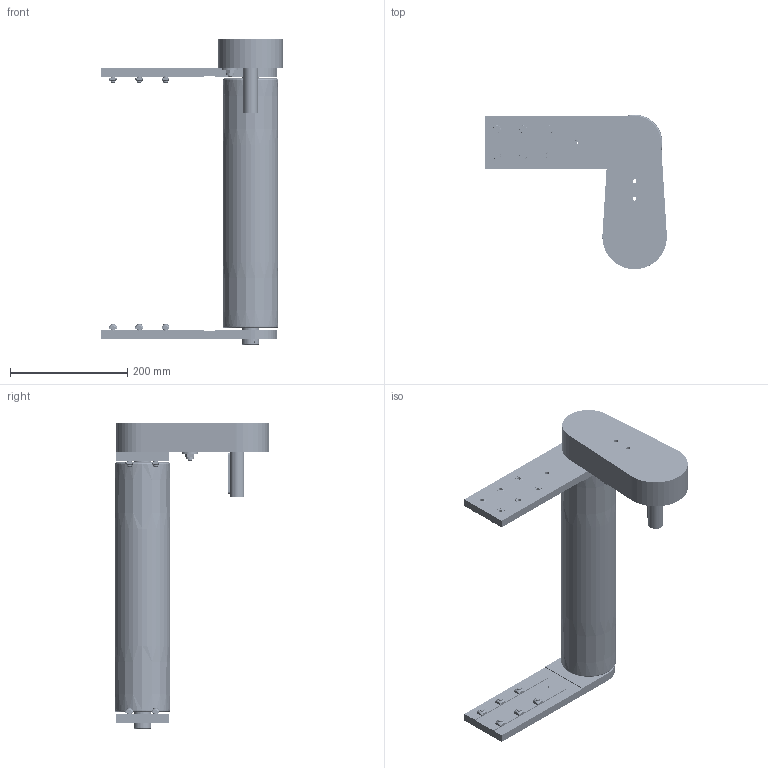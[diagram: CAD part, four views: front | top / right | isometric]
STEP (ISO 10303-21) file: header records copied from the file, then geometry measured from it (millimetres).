
FILE_DESCRIPTION (( 'STEP AP203' ), '1' );
FILE_NAME ('084.095.KTC.49.400.step', '2013-02-28T12:00:20', ( '' ), ( '' ), 'SwSTEP 2.0', 'SolidWorks 2011', '' );
FILE_SCHEMA (( 'CONFIG_CONTROL_DESIGN' ));
Products named in the file (24): 084.095.KTC.49.400; 084.813.005; 084.302.000 DADI ALUSIC 13x13_084.302.004; 084.301.000 VITI ALUSIC_084.301.003; 084.809.003; 084.810.005; Torque nut 01_ALUSIC_ISO 7040-M8-S; Plain Washer XLarge Grade C_ALUSIC_Washer ISO 7094 - 8; Circlip for Shafts normal_din_Circlip DIN 471 - 8 x 0.8; CUSCINETTI A SFERE_608-2RS; 084.810.004; 084.810.007; CHIAVETTE_A 8x7x70 UNI 6604-69; 084.803.012; 084.803.014; 084.809.002; 084.808.002_084.808.002; 084.808.003_084.808.003; 084.802.019_084.802.019; 084.802.034_084.802.034; 084.810.003; 084.813.002; 084.812.003; 084.816.107_084.816.107<A macchina>
Assembly tree (48 placements, depth 3):
  084.095.KTC.49.400
    084.302.000 DADI ALUSIC 13x13_084.302.004  x12
    084.301.000 VITI ALUSIC_084.301.003  x12
    084.809.003
    084.808.002_084.808.002
    084.803.014  x2
    084.810.003  x2
    084.802.034_084.802.034
    084.813.002
    084.809.002
    084.808.003_084.808.003
    084.812.003
    084.816.107_084.816.107<A macchina>
    084.802.019_084.802.019
    084.813.005
    084.803.012
    084.810.005
      CUSCINETTI A SFERE_608-2RS  x2
      Torque nut 01_ALUSIC_ISO 7040-M8-S
      Circlip for Shafts normal_din_Circlip DIN 471 - 8 x 0.8
      Plain Washer XLarge Grade C_ALUSIC_Washer ISO 7094 - 8
      084.810.007
      084.810.004
    CHIAVETTE_A 8x7x70 UNI 6604-69
Bounding box: 310 x 264 x 523.5 mm (x, y, z)
Volume: 2014618.6 mm3; surface area: 891910.9 mm2
Topology: 77 solids, 78 shells, 3128 faces, 7346 edges, 4692 vertices
Faces by surface type: cylinder 1493, plane 851, bspline 468, cone 197, torus 110, sphere 9
Entity records: 84145 total; most frequent: CARTESIAN_POINT 18919, DIRECTION 14131, ORIENTED_EDGE 12242, EDGE_CURVE 6121, AXIS2_PLACEMENT_3D 5953, VERTEX_POINT 3897, CIRCLE 3741, EDGE_LOOP 3202
